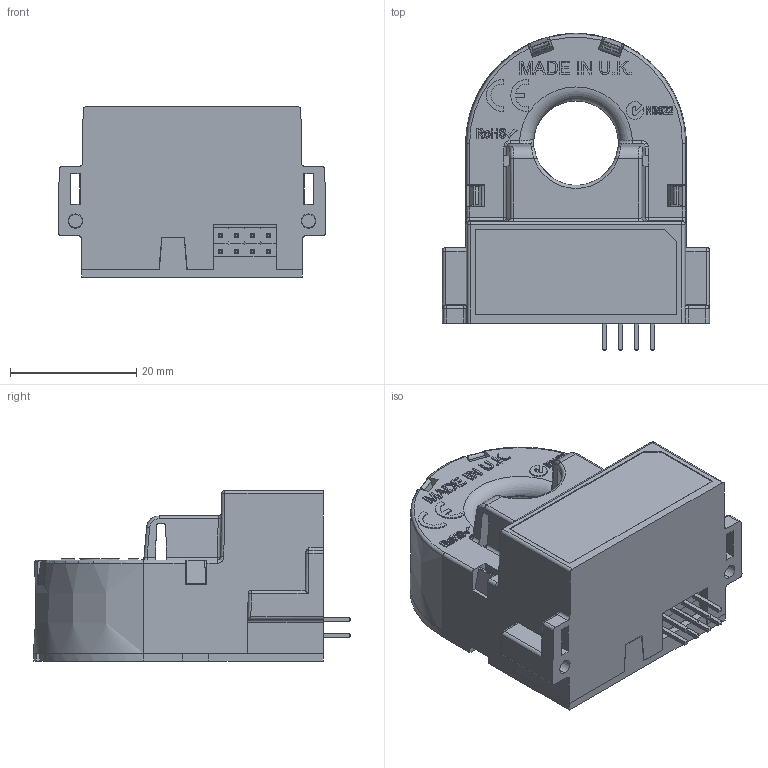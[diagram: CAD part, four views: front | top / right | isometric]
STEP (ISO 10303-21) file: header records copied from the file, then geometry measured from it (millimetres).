
FILE_DESCRIPTION(('FreeCAD Model'),'2;1');
FILE_NAME('H:/Projects/PJ213 - RCM-EV 6mA Detectors/Housing/RCM-EV-03/Broyce_RCM-EV-03.step','2021-01-14T18:27:25' ,(''),(''),'Open CASCADE STEP processor 7.3','FreeCAD','Unknown');
FILE_SCHEMA(('AUTOMOTIVE_DESIGN { 1 0 10303 214 1 1 1 1 }'));
Products named in the file (1): Fusion
Bounding box: 42.48 x 50.33 x 27.05 mm (x, y, z)
Volume: 8645.4 mm3; surface area: 14503.4 mm2
Topology: 2 solids, 4 shells, 886 faces, 2389 edges, 1521 vertices
Faces by surface type: plane 571, bspline 111, cylinder 98, cone 65, torus 25, sphere 16
Entity records: 79995 total; most frequent: CARTESIAN_POINT 29220, DIRECTION 7229, LINE 5058, VECTOR 5058, ORIENTED_EDGE 4774, PCURVE 4774, DEFINITIONAL_REPRESENTATION 4774, EDGE_CURVE 2387
